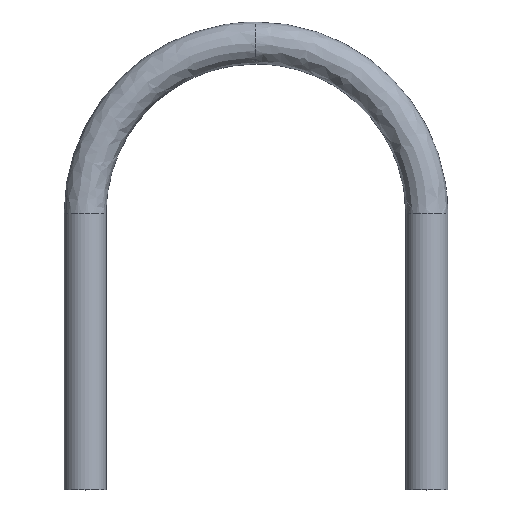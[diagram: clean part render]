
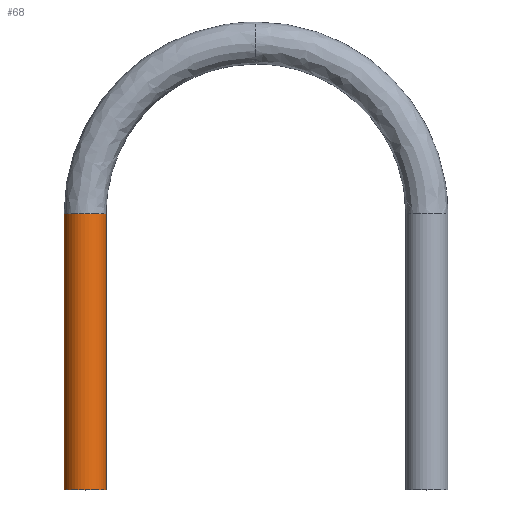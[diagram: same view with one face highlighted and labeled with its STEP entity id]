
A CAD part, top view. The second image highlights one B-rep face of the part: STEP entity #68.
In plain terms, the highlighted cylindrical face has radius 6.35 mm (diameter 12.7 mm), a partial arc.
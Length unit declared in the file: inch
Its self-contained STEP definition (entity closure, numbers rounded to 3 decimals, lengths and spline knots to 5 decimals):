
#68=ADVANCED_FACE('',(#124),#125,.T.);
#124=FACE_OUTER_BOUND('',#448,.T.);
#125=CYLINDRICAL_SURFACE('',#449,0.25);
#448=EDGE_LOOP('',(#505,#506,#507,#508));
#449=AXIS2_PLACEMENT_3D('',#509,#510,#511);
#505=ORIENTED_EDGE('',*,*,#536,.F.);
#506=ORIENTED_EDGE('',*,*,#550,.T.);
#507=ORIENTED_EDGE('',*,*,#538,.F.);
#508=ORIENTED_EDGE('',*,*,#555,.T.);
#509=CARTESIAN_POINT('',(0.0,0.0,0.0));
#510=DIRECTION('',(-0.0,-1.0,-0.0));
#511=DIRECTION('',(-1.0,0.0,0.0));
#536=EDGE_CURVE('',#565,#566,#567,.T.);
#538=EDGE_CURVE('',#568,#570,#571,.T.);
#550=EDGE_CURVE('',#565,#570,#587,.T.);
#555=EDGE_CURVE('',#568,#566,#592,.T.);
#565=VERTEX_POINT('',#604);
#566=VERTEX_POINT('',#605);
#567=LINE('',#606,#607);
#568=VERTEX_POINT('',#608);
#570=VERTEX_POINT('',#610);
#571=LINE('',#611,#612);
#587=CIRCLE('',#648,0.25);
#592=CIRCLE('',#653,0.25);
#604=CARTESIAN_POINT('',(-0.25,0.0,0.0));
#605=CARTESIAN_POINT('',(-0.25,3.281,0.0));
#606=CARTESIAN_POINT('',(-0.25,0.0,0.));
#607=VECTOR('',#666,1.0);
#608=CARTESIAN_POINT('',(0.25,3.281,0.));
#610=CARTESIAN_POINT('',(0.25,0.0,0.));
#611=CARTESIAN_POINT('',(0.25,0.0,0.));
#612=VECTOR('',#670,1.0);
#648=AXIS2_PLACEMENT_3D('',#683,#684,#685);
#653=AXIS2_PLACEMENT_3D('',#689,#690,#691);
#666=DIRECTION('',(0.0,1.0,0.0));
#670=DIRECTION('',(-0.0,-1.0,-0.0));
#683=CARTESIAN_POINT('',(0.0,0.0,0.0));
#684=DIRECTION('',(0.0,1.0,0.0));
#685=DIRECTION('',(-1.0,0.0,0.0));
#689=CARTESIAN_POINT('',(0.0,3.281,0.0));
#690=DIRECTION('',(-0.0,-1.0,-0.0));
#691=DIRECTION('',(-1.0,0.0,0.0));
